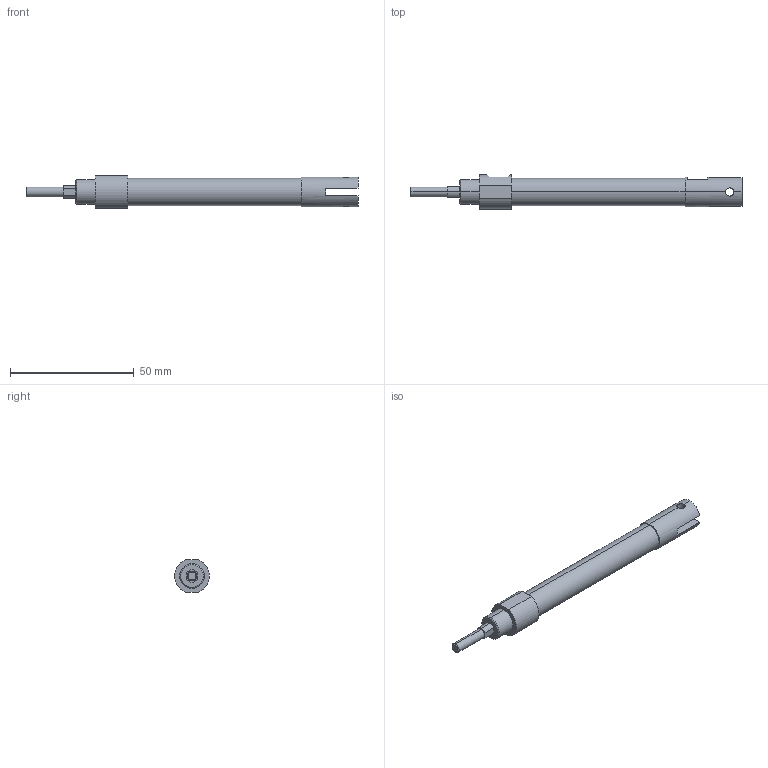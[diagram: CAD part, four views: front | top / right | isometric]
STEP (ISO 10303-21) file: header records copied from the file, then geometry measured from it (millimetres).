
FILE_DESCRIPTION (( 'STEP AP203' ), '1' );
FILE_NAME ('ZGU2-10-45-W.STEP', '2016-03-31T00:54:21', ( '' ), ( '' ), 'SwSTEP 2.0', 'SolidWorks 2014', '' );
FILE_SCHEMA (( 'CONFIG_CONTROL_DESIGN' ));
Length unit declared in the file: millimetre
Products named in the file (1): ZGU2-10-45-W
Bounding box: 134 x 14 x 13 mm (x, y, z)
Volume: 11250.1 mm3; surface area: 5178 mm2
Topology: 1 solids, 1 shells, 50 faces, 117 edges, 72 vertices
Faces by surface type: cylinder 21, plane 21, cone 8
Entity records: 1590 total; most frequent: CARTESIAN_POINT 350, DIRECTION 257, ORIENTED_EDGE 226, EDGE_CURVE 113, AXIS2_PLACEMENT_3D 99, VERTEX_POINT 72, EDGE_LOOP 61, LINE 59
